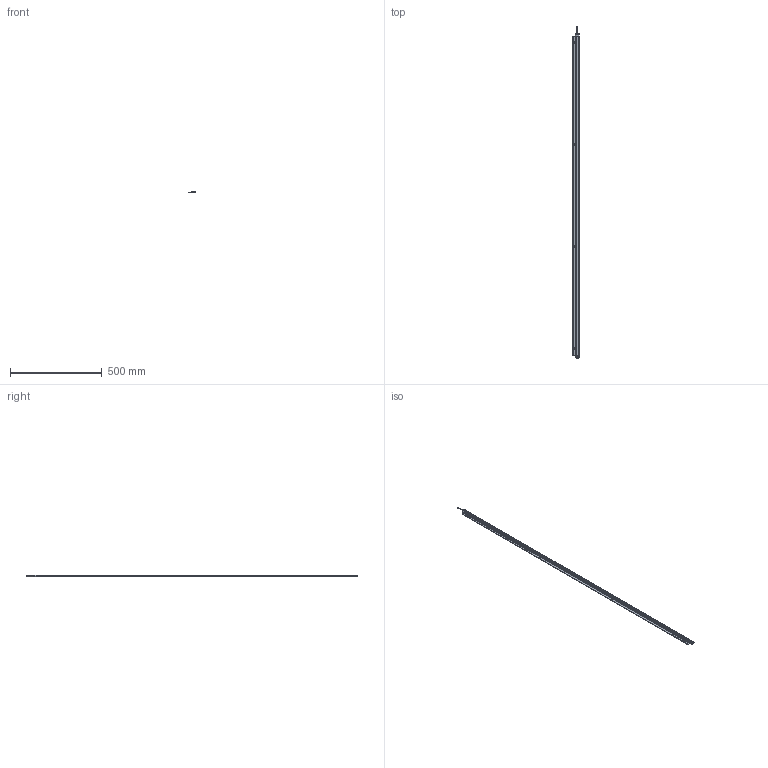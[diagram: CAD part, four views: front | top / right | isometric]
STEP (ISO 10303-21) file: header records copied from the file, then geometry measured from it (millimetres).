
FILE_DESCRIPTION (( 'STEP AP214' ), '1' );
FILE_NAME ('ILGA-L-K1-1770mm.STEP', '2026-04-24T23:07:34', ( '' ), ( '' ), 'SwSTEP 2.0', 'SolidWorks 2025', '' );
FILE_SCHEMA (( 'AUTOMOTIVE_DESIGN' ));
Length unit declared in the file: millimetre
Products named in the file (1): ILGA-L-K1-1770mm
Bounding box: 35 x 1810 x 10.7 mm (x, y, z)
Volume: 183840.6 mm3; surface area: 272629.9 mm2
Topology: 9 solids, 9 shells, 680 faces, 1768 edges, 1080 vertices
Faces by surface type: plane 293, cylinder 245, cone 60, torus 42, bspline 24, sphere 16
Entity records: 28575 total; most frequent: CARTESIAN_POINT 4429, DIRECTION 3606, ORIENTED_EDGE 3448, EDGE_CURVE 1724, AXIS2_PLACEMENT_3D 1345, VERTEX_POINT 1080, VECTOR 916, LINE 916
